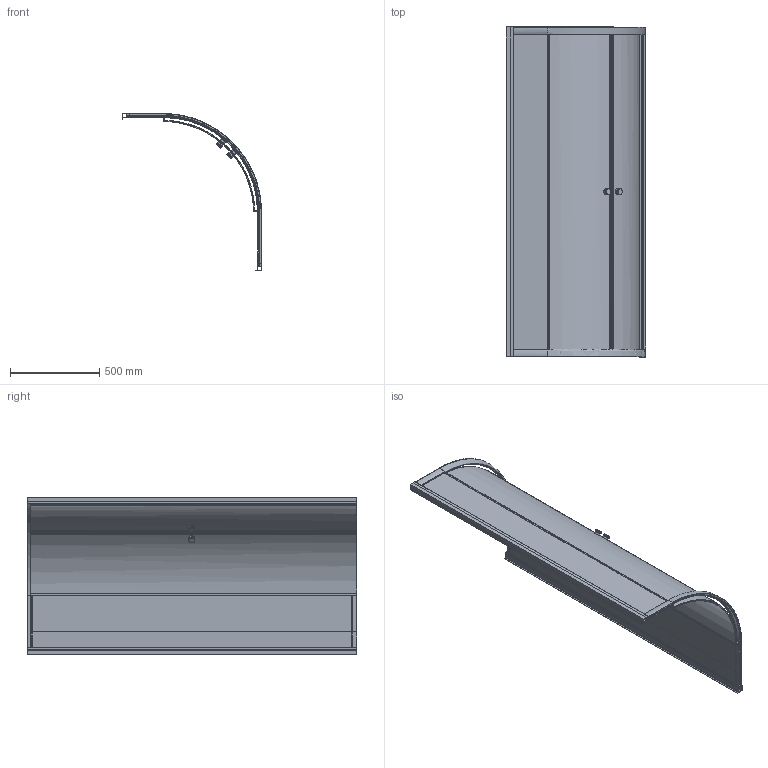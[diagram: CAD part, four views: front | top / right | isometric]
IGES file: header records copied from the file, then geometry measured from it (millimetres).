
Global section: file name: 5902539818901_igs; native system: Autodesk Inventor 2020; preprocessor: unknown; date: 20200727.142352; units: millimetre
Bounding box: 783.85 x 1850.24 x 883.85 mm (x, y, z)
Surface area: 7770795.9 mm2 (no closed solid volume)
Topology: 0 solids, 0 shells, 392 faces, 2494 edges, 2478 vertices
Faces by surface type: bspline 343, revolution 49
